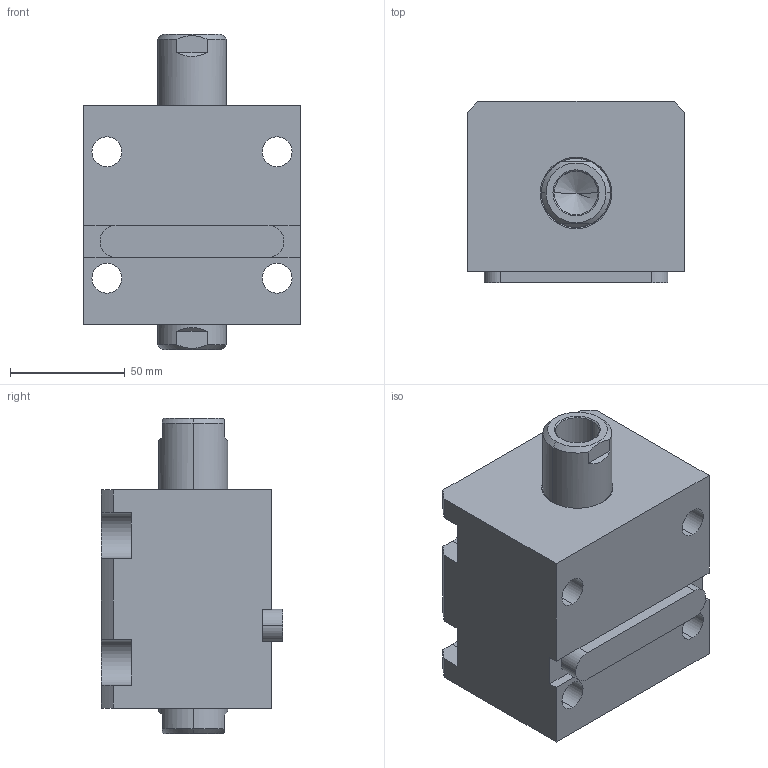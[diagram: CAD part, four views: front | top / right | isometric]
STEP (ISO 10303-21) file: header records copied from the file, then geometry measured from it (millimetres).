
FILE_DESCRIPTION (( 'STEP AP203' ), '1' );
FILE_NAME ('CHTB-LW50-20N.STEP', '2018-05-18T02:25:40', ( '' ), ( '' ), 'SwSTEP 2.0', 'SolidWorks 2015', '' );
FILE_SCHEMA (( 'CONFIG_CONTROL_DESIGN' ));
Length unit declared in the file: millimetre
Products named in the file (4): CHTB-LW50-20N; CHTM-SDMA50QG; 活塞杆LW50-20N; 掛极LW50-20N
Assembly tree (3 placements, depth 2):
  CHTB-LW50-20N
    掛极LW50-20N
    活塞杆LW50-20N
    CHTM-SDMA50QG
Bounding box: 94 x 79 x 137 mm (x, y, z)
Volume: 592785.1 mm3; surface area: 107686.8 mm2
Topology: 3 solids, 3 shells, 221 faces, 588 edges, 385 vertices
Faces by surface type: cylinder 102, plane 58, cone 31, torus 16, bspline 14
Entity records: 11831 total; most frequent: CARTESIAN_POINT 6126, ORIENTED_EDGE 1160, DIRECTION 1056, EDGE_CURVE 580, AXIS2_PLACEMENT_3D 416, VERTEX_POINT 385, EDGE_LOOP 257, VECTOR 224
